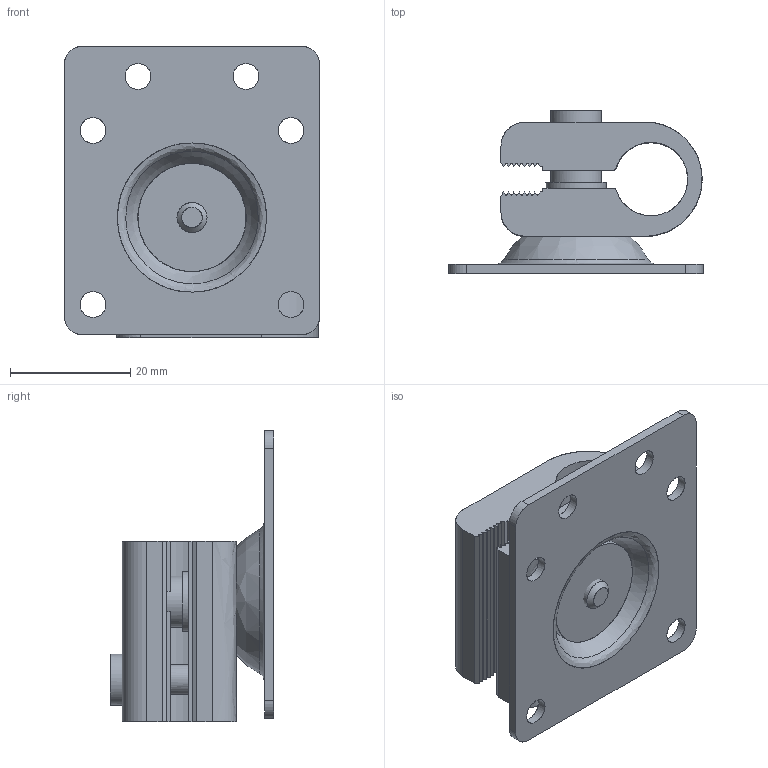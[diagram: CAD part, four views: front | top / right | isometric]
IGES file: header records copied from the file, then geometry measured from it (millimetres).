
Global section: file name: E:\lem\3DCAD_BTU320M_D12.igs; native system: NX V8.5; preprocessor: SIEMENS PLM Software NX 8.5; date: 20160118.094329; units: millimetre
Bounding box: 42.5 x 27.2 x 48.5 mm (x, y, z)
Surface area: 12862.3 mm2 (no closed solid volume)
Topology: 0 solids, 0 shells, 421 faces, 2806 edges, 2762 vertices
Faces by surface type: bspline 421
